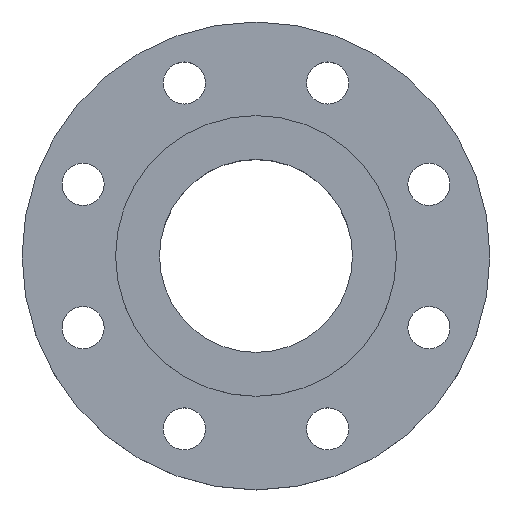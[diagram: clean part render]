
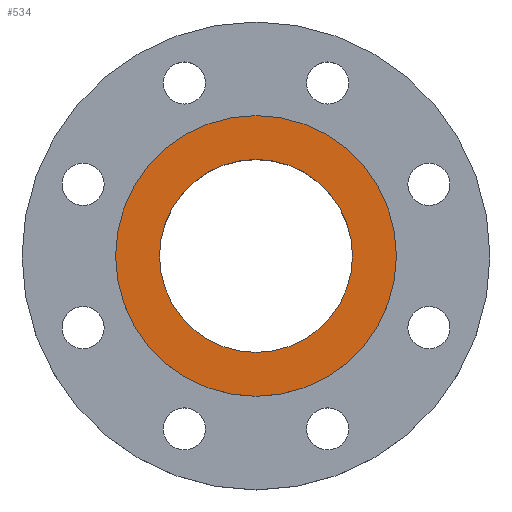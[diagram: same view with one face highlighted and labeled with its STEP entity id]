
A CAD part, top view. The second image highlights one B-rep face of the part: STEP entity #534.
In plain terms, the highlighted planar face has unit normal (0, 0, 1).
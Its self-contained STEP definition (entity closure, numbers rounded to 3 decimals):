
#27 = CIRCLE ( 'NONE', #28, 60. ) ;
#28 = AXIS2_PLACEMENT_3D ( 'NONE', #273, #272, #271 ) ;
#188 = CARTESIAN_POINT ( 'NONE',  ( -60., 0., 0. ) ) ;
#193 = CARTESIAN_POINT ( 'NONE',  ( -41.25, 0., 0. ) ) ;
#201 = CARTESIAN_POINT ( 'NONE',  ( 41.25, 0., 0. ) ) ;
#217 = DIRECTION ( 'NONE',  ( -1., 0., 0. ) ) ;
#218 = DIRECTION ( 'NONE',  ( 0., 0., -1. ) ) ;
#221 = CARTESIAN_POINT ( 'NONE',  ( 0., 0., 0. ) ) ;
#271 = DIRECTION ( 'NONE',  ( -1., 0., 0. ) ) ;
#272 = DIRECTION ( 'NONE',  ( 0., 0., -1. ) ) ;
#273 = CARTESIAN_POINT ( 'NONE',  ( 0., 0., 0. ) ) ;
#355 = CARTESIAN_POINT ( 'NONE',  ( 60., 0., 0. ) ) ;
#367 = DIRECTION ( 'NONE',  ( -1., 0., 0. ) ) ;
#370 = DIRECTION ( 'NONE',  ( 0., 0., -1. ) ) ;
#372 = CARTESIAN_POINT ( 'NONE',  ( 0., 0., 0. ) ) ;
#424 = AXIS2_PLACEMENT_3D ( 'NONE', #522, #521, #520 ) ;
#469 = DIRECTION ( 'NONE',  ( -1., 0., 0. ) ) ;
#470 = DIRECTION ( 'NONE',  ( 0., 0., -1. ) ) ;
#471 = CARTESIAN_POINT ( 'NONE',  ( 0., 0., 0. ) ) ;
#520 = DIRECTION ( 'NONE',  ( 1., 0., 0. ) ) ;
#521 = DIRECTION ( 'NONE',  ( 0., 0., 1. ) ) ;
#522 = CARTESIAN_POINT ( 'NONE',  ( 0., 0., 0. ) ) ;
#523 = PLANE ( 'NONE',  #424 ) ;
#524 = FACE_OUTER_BOUND ( 'NONE', #1045, .T. ) ;
#526 = FACE_BOUND ( 'NONE', #1056, .T. ) ;
#534 = ADVANCED_FACE ( 'NONE', ( #526, #524 ), #523, .T. ) ;
#623 = EDGE_CURVE ( 'NONE', #825, #969, #650, .T. ) ;
#640 = AXIS2_PLACEMENT_3D ( 'NONE', #471, #470, #469 ) ;
#650 = CIRCLE ( 'NONE', #640, 60. ) ;
#746 = ORIENTED_EDGE ( 'NONE', *, *, #794, .T. ) ;
#747 = ORIENTED_EDGE ( 'NONE', *, *, #944, .T. ) ;
#749 = ORIENTED_EDGE ( 'NONE', *, *, #926, .F. ) ;
#752 = ORIENTED_EDGE ( 'NONE', *, *, #623, .F. ) ;
#771 = CIRCLE ( 'NONE', #788, 41.25 ) ;
#788 = AXIS2_PLACEMENT_3D ( 'NONE', #221, #218, #217 ) ;
#794 = EDGE_CURVE ( 'NONE', #963, #957, #796, .T. ) ;
#795 = AXIS2_PLACEMENT_3D ( 'NONE', #372, #370, #367 ) ;
#796 = CIRCLE ( 'NONE', #795, 41.25 ) ;
#825 = VERTEX_POINT ( 'NONE', #355 ) ;
#926 = EDGE_CURVE ( 'NONE', #969, #825, #27, .T. ) ;
#944 = EDGE_CURVE ( 'NONE', #957, #963, #771, .T. ) ;
#957 = VERTEX_POINT ( 'NONE', #201 ) ;
#963 = VERTEX_POINT ( 'NONE', #193 ) ;
#969 = VERTEX_POINT ( 'NONE', #188 ) ;
#1045 = EDGE_LOOP ( 'NONE', ( #749, #752 ) ) ;
#1056 = EDGE_LOOP ( 'NONE', ( #746, #747 ) ) ;
